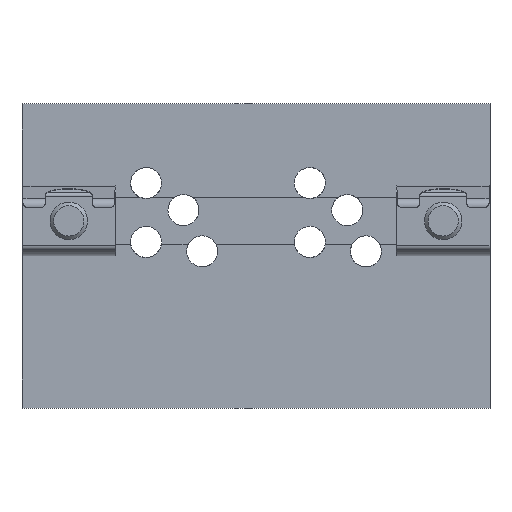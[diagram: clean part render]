
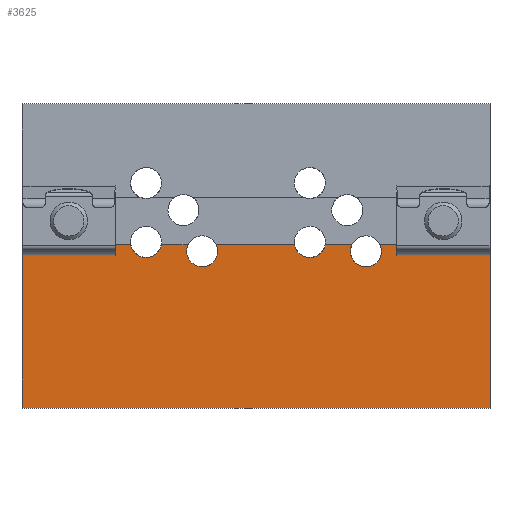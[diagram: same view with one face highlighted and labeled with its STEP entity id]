
A CAD part, left-side view. The second image highlights one B-rep face of the part: STEP entity #3625.
In plain terms, the highlighted planar face has unit normal (-1, 0, 0).
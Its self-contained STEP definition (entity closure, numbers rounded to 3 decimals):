
#189=LINE('',#5630,#519);
#190=LINE('',#5632,#520);
#191=LINE('',#5634,#521);
#192=LINE('',#5636,#522);
#193=LINE('',#5638,#523);
#194=LINE('',#5640,#524);
#195=LINE('',#5644,#525);
#196=LINE('',#5647,#526);
#519=VECTOR('',#4506,5.732);
#520=VECTOR('',#4507,23.222);
#521=VECTOR('',#4508,34.95);
#522=VECTOR('',#4509,100.);
#523=VECTOR('',#4510,34.95);
#524=VECTOR('',#4511,23.509);
#525=VECTOR('',#4514,5.732);
#526=VECTOR('',#4517,16.732);
#764=PLANE('',#3887);
#992=FACE_OUTER_BOUND('',#1214,.T.);
#1214=EDGE_LOOP('',(#2720,#2721,#2722,#2723,#2724,#2725,#2726,#2727,#2728,
#2729,#2730,#2731));
#1412=CIRCLE('',#3872,3.324);
#1418=CIRCLE('',#3880,3.324);
#1424=CIRCLE('',#3888,3.324);
#1425=CIRCLE('',#3889,3.324);
#1624=VERTEX_POINT('',#5586);
#1625=VERTEX_POINT('',#5587);
#1634=VERTEX_POINT('',#5608);
#1635=VERTEX_POINT('',#5609);
#1644=VERTEX_POINT('',#5631);
#1645=VERTEX_POINT('',#5633);
#1646=VERTEX_POINT('',#5635);
#1647=VERTEX_POINT('',#5637);
#1648=VERTEX_POINT('',#5639);
#1649=VERTEX_POINT('',#5641);
#1650=VERTEX_POINT('',#5643);
#1651=VERTEX_POINT('',#5645);
#2019=EDGE_CURVE('',#1624,#1625,#1412,.T.);
#2029=EDGE_CURVE('',#1634,#1635,#1418,.T.);
#2039=EDGE_CURVE('',#1625,#1634,#189,.T.);
#2040=EDGE_CURVE('',#1635,#1644,#190,.T.);
#2041=EDGE_CURVE('',#1644,#1645,#191,.T.);
#2042=EDGE_CURVE('',#1646,#1645,#192,.T.);
#2043=EDGE_CURVE('',#1646,#1647,#193,.T.);
#2044=EDGE_CURVE('',#1647,#1648,#194,.T.);
#2045=EDGE_CURVE('',#1648,#1649,#1424,.T.);
#2046=EDGE_CURVE('',#1649,#1650,#195,.T.);
#2047=EDGE_CURVE('',#1650,#1651,#1425,.T.);
#2048=EDGE_CURVE('',#1651,#1624,#196,.T.);
#2720=ORIENTED_EDGE('',*,*,#2019,.T.);
#2721=ORIENTED_EDGE('',*,*,#2039,.T.);
#2722=ORIENTED_EDGE('',*,*,#2029,.T.);
#2723=ORIENTED_EDGE('',*,*,#2040,.T.);
#2724=ORIENTED_EDGE('',*,*,#2041,.T.);
#2725=ORIENTED_EDGE('',*,*,#2042,.F.);
#2726=ORIENTED_EDGE('',*,*,#2043,.T.);
#2727=ORIENTED_EDGE('',*,*,#2044,.T.);
#2728=ORIENTED_EDGE('',*,*,#2045,.T.);
#2729=ORIENTED_EDGE('',*,*,#2046,.T.);
#2730=ORIENTED_EDGE('',*,*,#2047,.T.);
#2731=ORIENTED_EDGE('',*,*,#2048,.T.);
#3625=ADVANCED_FACE('',(#992),#764,.T.);
#3872=AXIS2_PLACEMENT_3D('',#5588,#4466,#4467);
#3880=AXIS2_PLACEMENT_3D('',#5610,#4486,#4487);
#3887=AXIS2_PLACEMENT_3D('',#5629,#4504,#4505);
#3888=AXIS2_PLACEMENT_3D('',#5642,#4512,#4513);
#3889=AXIS2_PLACEMENT_3D('',#5646,#4515,#4516);
#4466=DIRECTION('center_axis',(1.,0.,0.));
#4467=DIRECTION('ref_axis',(0.,1.,0.));
#4486=DIRECTION('center_axis',(1.,0.,0.));
#4487=DIRECTION('ref_axis',(0.,1.,0.));
#4504=DIRECTION('center_axis',(-1.,0.,0.));
#4505=DIRECTION('ref_axis',(0.,-1.,0.));
#4506=DIRECTION('',(0.,1.,0.));
#4507=DIRECTION('',(0.,1.,0.));
#4508=DIRECTION('',(0.,0.,-1.));
#4509=DIRECTION('',(0.,1.,0.));
#4510=DIRECTION('',(0.,0.,1.));
#4511=DIRECTION('',(0.,1.,0.));
#4512=DIRECTION('center_axis',(1.,0.,0.));
#4513=DIRECTION('ref_axis',(0.,1.,0.));
#4514=DIRECTION('',(0.,1.,0.));
#4515=DIRECTION('center_axis',(1.,0.,0.));
#4516=DIRECTION('ref_axis',(0.,1.,0.));
#4517=DIRECTION('',(0.,1.,0.));
#5586=CARTESIAN_POINT('',(0.,8.509,-5.05));
#5587=CARTESIAN_POINT('',(0.,14.491,-5.05));
#5588=CARTESIAN_POINT('Origin',(0.,11.5,-6.5));
#5608=CARTESIAN_POINT('',(0.,20.222,-5.05));
#5609=CARTESIAN_POINT('',(0.,26.778,-5.05));
#5610=CARTESIAN_POINT('Origin',(0.,23.5,-4.5));
#5629=CARTESIAN_POINT('Origin',(0.,0.,-40.));
#5630=CARTESIAN_POINT('',(0.,0.,-5.05));
#5631=CARTESIAN_POINT('',(0.,50.,-5.05));
#5632=CARTESIAN_POINT('',(0.,0.,-5.05));
#5633=CARTESIAN_POINT('',(0.,50.,-40.));
#5634=CARTESIAN_POINT('',(0.,50.,-40.));
#5635=CARTESIAN_POINT('',(0.,-50.,-40.));
#5636=CARTESIAN_POINT('',(0.,0.,-40.));
#5637=CARTESIAN_POINT('',(0.,-50.,-5.05));
#5638=CARTESIAN_POINT('',(0.,-50.,-40.));
#5639=CARTESIAN_POINT('',(0.,-26.491,-5.05));
#5640=CARTESIAN_POINT('',(0.,0.,-5.05));
#5641=CARTESIAN_POINT('',(0.,-20.509,-5.05));
#5642=CARTESIAN_POINT('Origin',(0.,-23.5,-6.5));
#5643=CARTESIAN_POINT('',(0.,-14.778,-5.05));
#5644=CARTESIAN_POINT('',(0.,0.,-5.05));
#5645=CARTESIAN_POINT('',(0.,-8.222,-5.05));
#5646=CARTESIAN_POINT('Origin',(0.,-11.5,-4.5));
#5647=CARTESIAN_POINT('',(0.,0.,-5.05));
